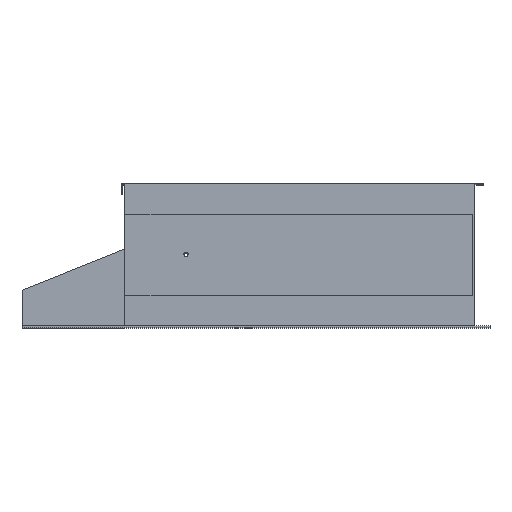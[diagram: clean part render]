
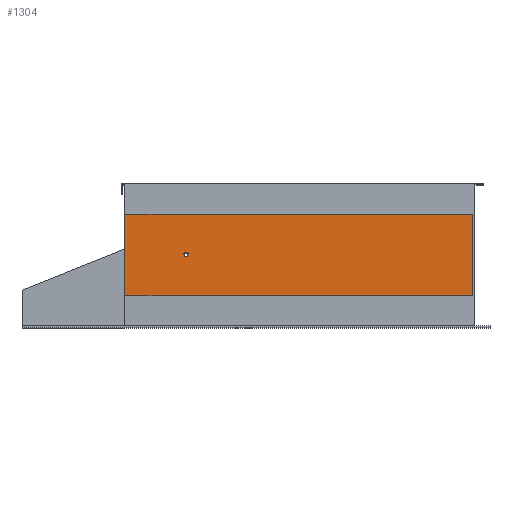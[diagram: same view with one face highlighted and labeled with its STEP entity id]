
A CAD part, top view. The second image highlights one B-rep face of the part: STEP entity #1304.
In plain terms, the highlighted planar face has unit normal (0, 0, 1).
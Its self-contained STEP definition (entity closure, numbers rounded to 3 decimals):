
#1283 = EDGE_CURVE ( 'NONE', #34736, #19382, #57649, .T. ) ;
#1304 = ADVANCED_FACE ( 'NONE', ( #32940, #10435 ), #32681, .T. ) ;
#2879 = VERTEX_POINT ( 'NONE', #28019 ) ;
#4367 = CARTESIAN_POINT ( 'NONE',  ( 1107., 79., 525. ) ) ;
#5908 = CARTESIAN_POINT ( 'NONE',  ( 403., 180., 525. ) ) ;
#10323 = VECTOR ( 'NONE', #27554, 1000. ) ;
#10435 = FACE_OUTER_BOUND ( 'NONE', #40277, .T. ) ;
#10541 = DIRECTION ( 'NONE',  ( 1., 0., 0. ) ) ;
#10635 = AXIS2_PLACEMENT_3D ( 'NONE', #5908, #37416, #10541 ) ;
#11470 = AXIS2_PLACEMENT_3D ( 'NONE', #15507, #46703, #20120 ) ;
#15507 = CARTESIAN_POINT ( 'NONE',  ( 403., 180., 525. ) ) ;
#15742 = AXIS2_PLACEMENT_3D ( 'NONE', #37335, #32307, #32113 ) ;
#18048 = CIRCLE ( 'NONE', #10635, 5. ) ;
#18750 = VERTEX_POINT ( 'NONE', #36168 ) ;
#19382 = VERTEX_POINT ( 'NONE', #55815 ) ;
#20120 = DIRECTION ( 'NONE',  ( 1., 0., 0. ) ) ;
#23154 = VERTEX_POINT ( 'NONE', #52801 ) ;
#25257 = CARTESIAN_POINT ( 'NONE',  ( 1107., 279., 525. ) ) ;
#26305 = EDGE_CURVE ( 'NONE', #19382, #2879, #39143, .T. ) ;
#27058 = EDGE_CURVE ( 'NONE', #2879, #23154, #43241, .T. ) ;
#27554 = DIRECTION ( 'NONE',  ( 0., 1., 0. ) ) ;
#28019 = CARTESIAN_POINT ( 'NONE',  ( 1107., 79., 525. ) ) ;
#28074 = CARTESIAN_POINT ( 'NONE',  ( 1107., 79., 525. ) ) ;
#28500 = EDGE_CURVE ( 'NONE', #23154, #34736, #43962, .T. ) ;
#29257 = EDGE_CURVE ( 'NONE', #18750, #42710, #42149, .T. ) ;
#29715 = DIRECTION ( 'NONE',  ( -1., 0., 0. ) ) ;
#32113 = DIRECTION ( 'NONE',  ( 1., 0., 0. ) ) ;
#32307 = DIRECTION ( 'NONE',  ( 0., 0., 1. ) ) ;
#32681 = PLANE ( 'NONE',  #15742 ) ;
#32940 = FACE_BOUND ( 'NONE', #37814, .T. ) ;
#34736 = VERTEX_POINT ( 'NONE', #37892 ) ;
#36168 = CARTESIAN_POINT ( 'NONE',  ( 408., 180., 525. ) ) ;
#37335 = CARTESIAN_POINT ( 'NONE',  ( 0., 0., 525. ) ) ;
#37416 = DIRECTION ( 'NONE',  ( 0., 0., 1. ) ) ;
#37814 = EDGE_LOOP ( 'NONE', ( #38642, #39786 ) ) ;
#37892 = CARTESIAN_POINT ( 'NONE',  ( 253., 279., 525. ) ) ;
#38642 = ORIENTED_EDGE ( 'NONE', *, *, #29257, .F. ) ;
#39143 = LINE ( 'NONE', #28074, #48114 ) ;
#39786 = ORIENTED_EDGE ( 'NONE', *, *, #45660, .F. ) ;
#40277 = EDGE_LOOP ( 'NONE', ( #40410, #40991, #42893, #43443 ) ) ;
#40410 = ORIENTED_EDGE ( 'NONE', *, *, #1283, .T. ) ;
#40991 = ORIENTED_EDGE ( 'NONE', *, *, #26305, .T. ) ;
#42149 = CIRCLE ( 'NONE', #11470, 5. ) ;
#42710 = VERTEX_POINT ( 'NONE', #42980 ) ;
#42893 = ORIENTED_EDGE ( 'NONE', *, *, #27058, .T. ) ;
#42980 = CARTESIAN_POINT ( 'NONE',  ( 398., 180., 525. ) ) ;
#43241 = LINE ( 'NONE', #4367, #10323 ) ;
#43443 = ORIENTED_EDGE ( 'NONE', *, *, #28500, .T. ) ;
#43962 = LINE ( 'NONE', #25257, #55586 ) ;
#45660 = EDGE_CURVE ( 'NONE', #42710, #18750, #18048, .T. ) ;
#46097 = VECTOR ( 'NONE', #47378, 1000. ) ;
#46254 = DIRECTION ( 'NONE',  ( 1., 0., 0. ) ) ;
#46703 = DIRECTION ( 'NONE',  ( 0., 0., 1. ) ) ;
#47378 = DIRECTION ( 'NONE',  ( 0., -1., 0. ) ) ;
#48114 = VECTOR ( 'NONE', #46254, 1000. ) ;
#48568 = CARTESIAN_POINT ( 'NONE',  ( 253., 79., 525. ) ) ;
#52801 = CARTESIAN_POINT ( 'NONE',  ( 1107., 279., 525. ) ) ;
#55586 = VECTOR ( 'NONE', #29715, 1000. ) ;
#55815 = CARTESIAN_POINT ( 'NONE',  ( 253., 79., 525. ) ) ;
#57649 = LINE ( 'NONE', #48568, #46097 ) ;
